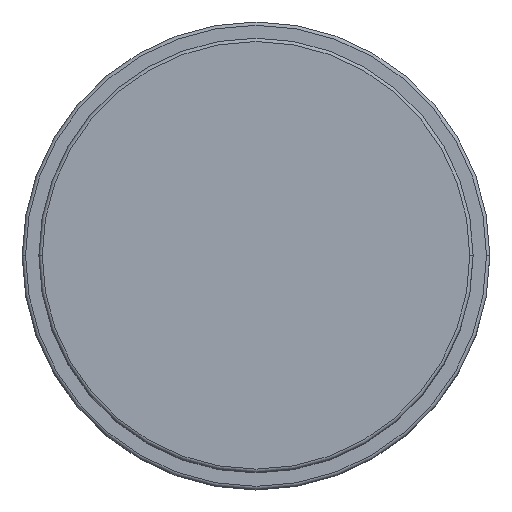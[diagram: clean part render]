
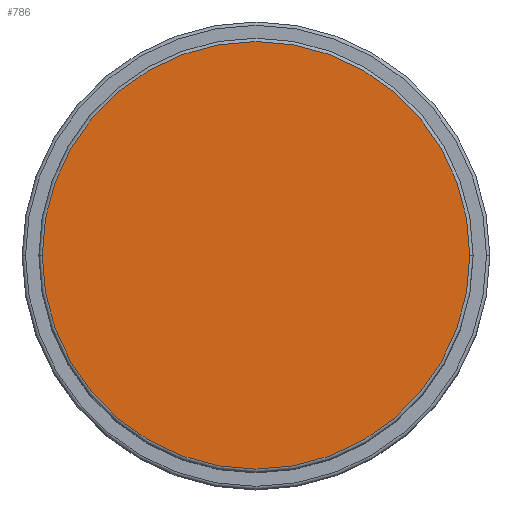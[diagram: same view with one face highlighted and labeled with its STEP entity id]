
A CAD part, top view. The second image highlights one B-rep face of the part: STEP entity #786.
In plain terms, the highlighted planar face has unit normal (0, 0, 1).
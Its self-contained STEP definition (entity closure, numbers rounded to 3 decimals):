
#90 = CIRCLE ( 'NONE', #1658, 32. ) ;
#149 = ORIENTED_EDGE ( 'NONE', *, *, #777, .T. ) ;
#237 = DIRECTION ( 'NONE',  ( 0., 0., 1. ) ) ;
#250 = AXIS2_PLACEMENT_3D ( 'NONE', #984, #638, #867 ) ;
#387 = FACE_OUTER_BOUND ( 'NONE', #1303, .T. ) ;
#511 = DIRECTION ( 'NONE',  ( 0., 0., 1. ) ) ;
#612 = CARTESIAN_POINT ( 'NONE',  ( 0., 0., 72. ) ) ;
#614 = CARTESIAN_POINT ( 'NONE',  ( -32., 0., 72. ) ) ;
#638 = DIRECTION ( 'NONE',  ( 0., 0., 1. ) ) ;
#643 = DIRECTION ( 'NONE',  ( 1., 0., 0. ) ) ;
#742 = CIRCLE ( 'NONE', #1295, 32. ) ;
#747 = DIRECTION ( 'NONE',  ( 1., 0., 0. ) ) ;
#777 = EDGE_CURVE ( 'NONE', #1653, #1452, #90, .T. ) ;
#786 = ADVANCED_FACE ( 'NONE', ( #387 ), #872, .T. ) ;
#834 = EDGE_CURVE ( 'NONE', #1452, #1653, #742, .T. ) ;
#867 = DIRECTION ( 'NONE',  ( 1., 0., 0. ) ) ;
#872 = PLANE ( 'NONE',  #250 ) ;
#984 = CARTESIAN_POINT ( 'NONE',  ( 0., 0., 72. ) ) ;
#1295 = AXIS2_PLACEMENT_3D ( 'NONE', #1608, #511, #643 ) ;
#1303 = EDGE_LOOP ( 'NONE', ( #1655, #149 ) ) ;
#1361 = CARTESIAN_POINT ( 'NONE',  ( 32., 0., 72. ) ) ;
#1452 = VERTEX_POINT ( 'NONE', #1361 ) ;
#1608 = CARTESIAN_POINT ( 'NONE',  ( 0., 0., 72. ) ) ;
#1653 = VERTEX_POINT ( 'NONE', #614 ) ;
#1655 = ORIENTED_EDGE ( 'NONE', *, *, #834, .T. ) ;
#1658 = AXIS2_PLACEMENT_3D ( 'NONE', #612, #237, #747 ) ;
